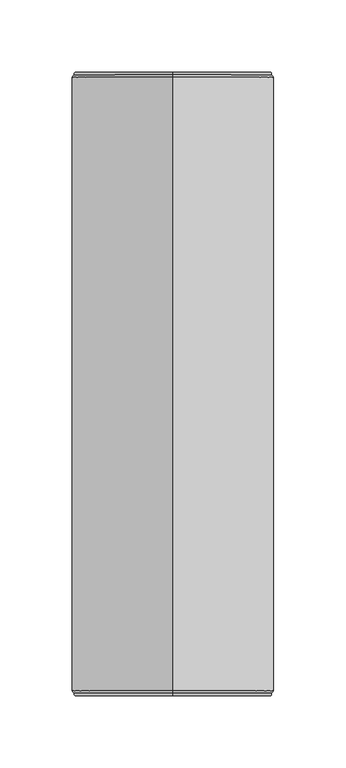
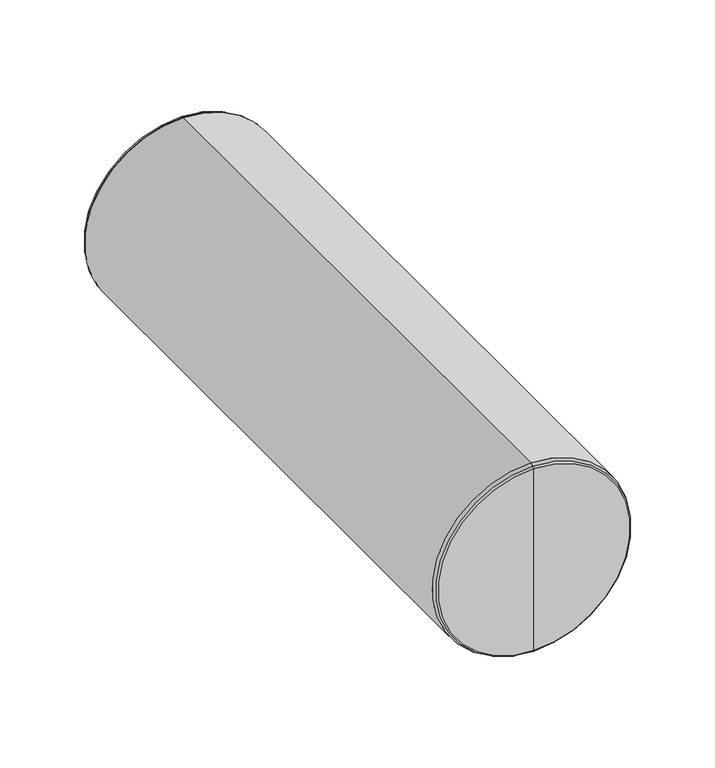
"""IFC4 building model written with IfcOpenShell, lengths in millimetres: furniture geometry, Coalesse_AM_Accessory_Pillow_Passerelle_ArmBolster : Arm Bolster."""

from ifc_helpers import new_model, si_unit, point, frame, origin, place, context, project, spatial, circle_curve, ellipse_curve, trimmed, source, transform, mapped, element, save
from ifc_brep_helpers import plane_surface, cylinder_surface, revolved_surface, advanced_brep


def furniture_47a4f57b(model_context):
    return source(origin(), model_context, "Body", "AdvancedBrep", [
        advanced_brep(
        [(-663.917922, 211.4525251, 446.6491046), (-663.917922, 211.4525251, 582.0508954), (-663.917922, 211.4525251, 514.35), (-663.917922, 213.3269625, 446.2296953), (-663.917922, 213.3269625, 582.4703047), (-663.917922, 215.0566578, 444.5), (-663.917922, 215.0566578, 584.2), (-663.917922, 639.6483924, 444.5), (-663.917922, 639.6483924, 584.2), (-663.917922, 641.3780877, 446.2296953), (-663.917922, 641.3780877, 582.4703047), (-663.917922, 643.2525251, 446.6491046), (-663.917922, 643.2525251, 582.0508954), (-663.917922, 643.2525251, 514.35)],
        [
            (0, 1, circle_curve(frame((-663.917922, 211.4525251, 514.35), z_axis=(0.0, -1.0, 0.0), x_axis=(0.0, 0.0, 1.0)), 67.7008954)),
            (1, 2),
            (2, 0),
            (1, 0, circle_curve(frame((-663.917922, 211.4525251, 514.35), z_axis=(0.0, -1.0, 0.0), x_axis=(0.0, 0.0, 1.0)), 67.7008954)),
            (3, 4, circle_curve(frame((-663.917922, 213.3269625, 514.35), z_axis=(0.0, -1.0, 0.0), x_axis=(0.0, 0.0, 1.0)), 68.1203047)),
            (4, 1, circle_curve(frame((-663.917922, 212.4366656, 582.0508954), z_axis=(1.0, 0.0, 0.0), x_axis=(0.0, 1.0, 0.0)), 0.9841405)),
            (0, 3, circle_curve(frame((-663.917922, 212.4366656, 446.6491046), z_axis=(1.0, 0.0, 0.0), x_axis=(0.0, 1.0, 0.0)), 0.9841405)),
            (4, 3, circle_curve(frame((-663.917922, 213.3269625, 514.35), z_axis=(0.0, -1.0, 0.0), x_axis=(0.0, 0.0, 1.0)), 68.1203047)),
            (5, 6, circle_curve(frame((-663.917922, 215.0566578, 514.35), z_axis=(0.0, -1.0, 0.0), x_axis=(0.0, 0.0, 1.0)), 69.85)),
            (6, 4, circle_curve(frame((-663.917922, 215.0566578, 582.4703047), z_axis=(1.0, 0.0, 0.0), x_axis=(0.0, 1.0, 0.0)), 1.7296953)),
            (3, 5, circle_curve(frame((-663.917922, 215.0566578, 446.2296953), z_axis=(1.0, 0.0, 0.0), x_axis=(0.0, 1.0, 0.0)), 1.7296953)),
            (6, 5, circle_curve(frame((-663.917922, 215.0566578, 514.35), z_axis=(0.0, -1.0, 0.0), x_axis=(0.0, 0.0, 1.0)), 69.85)),
            (7, 8, circle_curve(frame((-663.917922, 639.6483924, 514.35), z_axis=(0.0, -1.0, 0.0), x_axis=(0.0, 0.0, 1.0)), 69.85)),
            (8, 6),
            (5, 7),
            (8, 7, circle_curve(frame((-663.917922, 639.6483924, 514.35), z_axis=(0.0, -1.0, 0.0), x_axis=(0.0, 0.0, 1.0)), 69.85)),
            (9, 10, circle_curve(frame((-663.917922, 641.3780877, 514.35), z_axis=(0.0, -1.0, 0.0), x_axis=(0.0, 0.0, 1.0)), 68.1203047)),
            (10, 8, circle_curve(frame((-663.917922, 639.6483924, 582.4703047), z_axis=(1.0, 0.0, 0.0), x_axis=(0.0, -1.0, 0.0)), 1.7296953)),
            (7, 9, circle_curve(frame((-663.917922, 639.6483924, 446.2296953), z_axis=(1.0, 0.0, 0.0), x_axis=(0.0, -1.0, 0.0)), 1.7296953)),
            (10, 9, circle_curve(frame((-663.917922, 641.3780877, 514.35), z_axis=(0.0, -1.0, 0.0), x_axis=(0.0, 0.0, 1.0)), 68.1203047)),
            (11, 12, circle_curve(frame((-663.917922, 643.2525251, 514.35), z_axis=(0.0, -1.0, 0.0), x_axis=(0.0, 0.0, 1.0)), 67.7008954)),
            (12, 10, circle_curve(frame((-663.917922, 642.2683845, 582.0508954), z_axis=(1.0, 0.0, 0.0), x_axis=(0.0, -1.0, 0.0)), 0.9841405)),
            (9, 11, circle_curve(frame((-663.917922, 642.2683845, 446.6491046), z_axis=(1.0, 0.0, 0.0), x_axis=(0.0, -1.0, 0.0)), 0.9841405)),
            (12, 11, circle_curve(frame((-663.917922, 643.2525251, 514.35), z_axis=(0.0, -1.0, 0.0), x_axis=(0.0, 0.0, 1.0)), 67.7008954)),
            (13, 12),
            (11, 13),
        ],
        [
            plane_surface(frame((-663.917922, 211.4525251, 514.35), z_axis=(0.0, -1.0, 0.0), x_axis=(0.0, 0.0, 1.0))),
            revolved_surface(trimmed(ellipse_curve(frame((-663.917922, 212.4366656, 582.0508954), z_axis=(-1.0, 0.0, 0.0), x_axis=(0.0, 1.0, 0.0)), 0.9841405, 0.9841405), [point((-663.917922, 211.4525251, 582.0508954))], [point((-663.917922, 213.3269625, 582.4703047))], True, "CARTESIAN"), (-663.917922, 624.2025251, 514.35), (0.0, 1.0, 0.0)),
            revolved_surface(trimmed(ellipse_curve(frame((-663.917922, 215.0566578, 582.4703047), z_axis=(-1.0, 0.0, 0.0), x_axis=(0.0, 1.0, 0.0)), 1.7296953, 1.7296953), [point((-663.917922, 213.3269625, 582.4703047))], [point((-663.917922, 215.0566578, 584.2))], True, "CARTESIAN"), (-663.917922, 624.2025251, 514.35), (0.0, 1.0, 0.0)),
            cylinder_surface(frame((-663.917922, 624.2025251, 514.35), z_axis=(0.0, 1.0, 0.0), x_axis=(0.0, 0.0, 1.0)), 69.85),
            revolved_surface(trimmed(ellipse_curve(frame((-663.917922, 639.6483924, 582.4703047), z_axis=(-1.0, 0.0, 0.0), x_axis=(0.0, -1.0, 0.0)), 1.7296953, 1.7296953), [point((-663.917922, 639.6483924, 584.2))], [point((-663.917922, 641.3780877, 582.4703047))], True, "CARTESIAN"), (-663.917922, 624.2025251, 514.35), (0.0, 1.0, 0.0)),
            revolved_surface(trimmed(ellipse_curve(frame((-663.917922, 642.2683845, 582.0508954), z_axis=(-1.0, 0.0, 0.0), x_axis=(0.0, -1.0, 0.0)), 0.9841405, 0.9841405), [point((-663.917922, 641.3780877, 582.4703047))], [point((-663.917922, 643.2525251, 582.0508954))], True, "CARTESIAN"), (-663.917922, 624.2025251, 514.35), (0.0, 1.0, 0.0)),
            plane_surface(frame((-663.917922, 643.2525251, 514.35), z_axis=(0.0, 1.0, 0.0), x_axis=(0.0, 0.0, 1.0))),
        ],
        [
            (0, [[1, 2, 3]]),
            (0, [[4, -3, -2]]),
            (1, [[5, 6, -1, 7]]),
            (1, [[8, -7, -4, -6]]),
            (2, [[9, 10, -5, 11]]),
            (2, [[12, -11, -8, -10]]),
            (3, [[13, 14, -9, 15]]),
            (3, [[16, -15, -12, -14]]),
            (4, [[17, 18, -13, 19]]),
            (4, [[20, -19, -16, -18]]),
            (5, [[21, 22, -17, 23]]),
            (5, [[24, -23, -20, -22]]),
            (6, [[25, -21, 26]]),
            (6, [[-26, -24, -25]]),
        ],
    ),
    ])


if __name__ == "__main__":
    model = new_model("IFC4")
    model_context = context("Model", 3, world=origin())
    ifc_project = project(units=[si_unit("LENGTHUNIT", "METRE", prefix="MILLI")], contexts=[model_context])
    site = spatial("IfcSite", under=ifc_project)
    building = spatial("IfcBuilding", under=site)
    placement = place(None, origin())
    furniture_shape = furniture_47a4f57b(model_context)
    element("IfcFurniture", 1, ObjectType="Coalesse_AM_Accessory_Pillow_Passerelle_ArmBolster : Arm Bolster", at=placement, inside=building, context=model_context, shape_type="MappedRepresentation", body=[
        mapped(furniture_shape, transform((0.0, 0.0, 0.0), x_axis=(1.0, 0.0, 0.0), y_axis=(0.0, 1.0, 0.0), z_axis=(0.0, 0.0, 1.0))),
    ])
    save(model, "model.ifc")
